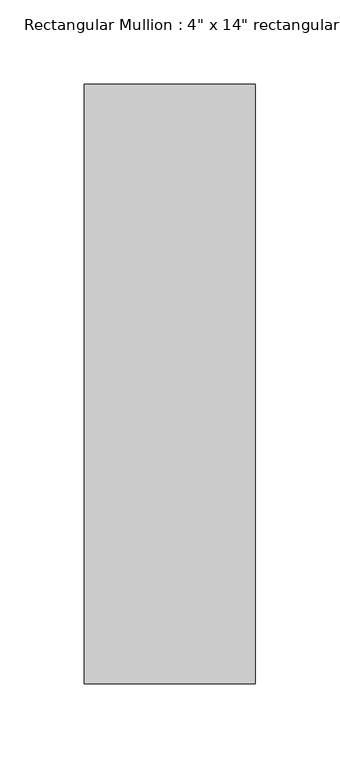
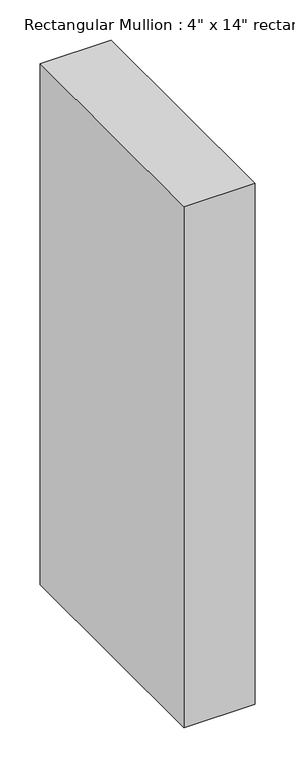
"""IFC4 building model written with IfcOpenShell, lengths in millimetres: member geometry."""

from ifc_helpers import new_model, si_unit, frame, origin, place, context, project, spatial, polyline, outline, extrude, source, transform, mapped, element, save


def member_65a2e8f8(model_context):
    return source(origin(), model_context, "Body", "SweptSolid", [
        extrude(outline(polyline([(50.8, 63.5), (50.8, -292.1), (-50.8, -292.1), (-50.8, 63.5), (50.8, 63.5)])), frame((0.0, 0.0, -787.4), z_axis=(0.0, 0.0, 1.0), x_axis=(1.0, 0.0, 0.0)), (0.0, 0.0, 1.0), 787.4),
    ])


if __name__ == "__main__":
    model = new_model("IFC4")
    model_context = context("Model", 3, world=origin())
    ifc_project = project(units=[si_unit("LENGTHUNIT", "METRE", prefix="MILLI")], contexts=[model_context])
    site = spatial("IfcSite", under=ifc_project)
    building = spatial("IfcBuilding", under=site)
    placement = place(None, origin())
    member_shape = member_65a2e8f8(model_context)
    element("IfcMember", 1, ObjectType="Rectangular Mullion : 4\" x 14\" rectangular", at=placement, inside=building, context=model_context, shape_type="MappedRepresentation", body=[
        mapped(member_shape, transform((0.0, 0.0, 0.0), x_axis=(1.0, 0.0, 0.0), y_axis=(0.0, 1.0, 0.0), z_axis=(0.0, 0.0, 1.0))),
    ])
    save(model, "model.ifc")
